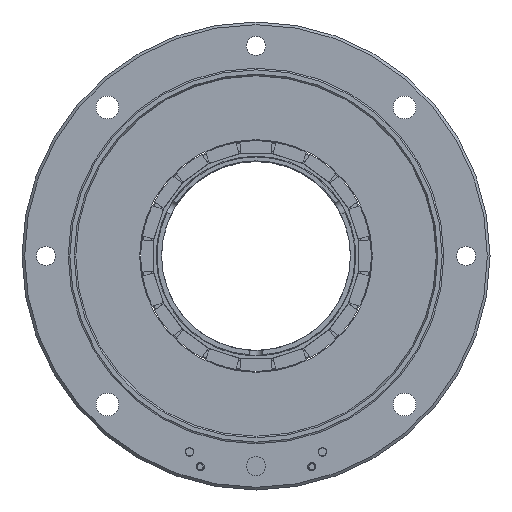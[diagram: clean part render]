
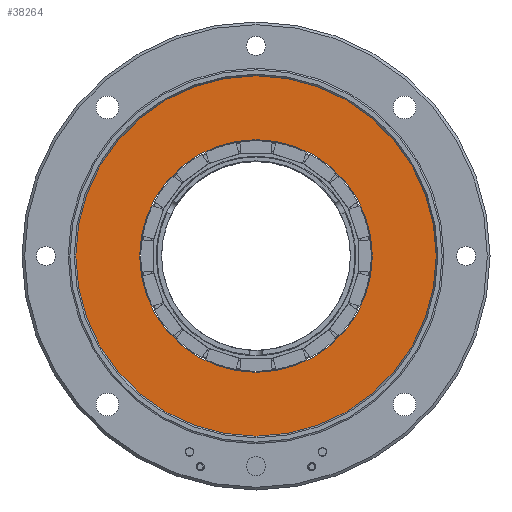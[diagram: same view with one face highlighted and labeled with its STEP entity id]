
A CAD part, left-side view. The second image highlights one B-rep face of the part: STEP entity #38264.
In plain terms, the highlighted planar face has unit normal (-1, 0, 0).
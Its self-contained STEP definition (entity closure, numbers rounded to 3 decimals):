
#19209=CARTESIAN_POINT('',(-1.1,0.,0.));
#19210=DIRECTION('',(-1.,0.,0.));
#19211=DIRECTION('',(0.,1.,0.));
#19212=AXIS2_PLACEMENT_3D('',#19209,#19210,#19211);
#19217=CARTESIAN_POINT('',(-1.1,0.,0.));
#19218=DIRECTION('',(1.,0.,0.));
#19219=DIRECTION('',(0.,1.,0.));
#19220=AXIS2_PLACEMENT_3D('',#19217,#19218,#19219);
#19233=CARTESIAN_POINT('',(-1.1,0.,0.));
#19234=DIRECTION('',(1.,0.,0.));
#19235=DIRECTION('',(0.,1.,0.));
#19236=AXIS2_PLACEMENT_3D('',#19233,#19234,#19235);
#19328=CARTESIAN_POINT('',(-1.1,0.,0.));
#19329=DIRECTION('',(-1.,0.,0.));
#19330=DIRECTION('',(0.,1.,0.));
#19331=AXIS2_PLACEMENT_3D('',#19328,#19329,#19330);
#33588=CARTESIAN_POINT('',(-1.1,21.87,0.));
#33589=CARTESIAN_POINT('',(-1.1,-21.87,0.));
#33590=VERTEX_POINT('',#33588);
#33591=VERTEX_POINT('',#33589);
#33601=CARTESIAN_POINT('',(-1.1,33.885,0.));
#33603=VERTEX_POINT('',#33601);
#33605=CARTESIAN_POINT('',(-1.1,-33.885,0.));
#33607=VERTEX_POINT('',#33605);
#38249=CARTESIAN_POINT('',(-1.1,0.,0.));
#38250=DIRECTION('',(1.,0.,0.));
#38251=DIRECTION('',(0.,-1.,0.));
#38252=AXIS2_PLACEMENT_3D('',#38249,#38250,#38251);
#38253=PLANE('',#38252);
#38254=ORIENTED_EDGE('',*,*,#38242,.F.);
#38255=ORIENTED_EDGE('',*,*,#38231,.T.);
#38256=EDGE_LOOP('',(#38254,#38255));
#38257=FACE_OUTER_BOUND('',#38256,.F.);
#38259=ORIENTED_EDGE('',*,*,#38258,.F.);
#38261=ORIENTED_EDGE('',*,*,#38260,.T.);
#38262=EDGE_LOOP('',(#38259,#38261));
#38263=FACE_BOUND('',#38262,.F.);
#38264=ADVANCED_FACE('',(#38257,#38263),#38253,.F.);
#19213=CIRCLE('',#19212,33.885);
#19221=CIRCLE('',#19220,33.885);
#19237=CIRCLE('',#19236,21.87);
#19332=CIRCLE('',#19331,21.87);
#38231=EDGE_CURVE('',#33603,#33607,#19221,.T.);
#38242=EDGE_CURVE('',#33603,#33607,#19213,.T.);
#38258=EDGE_CURVE('',#33590,#33591,#19237,.T.);
#38260=EDGE_CURVE('',#33590,#33591,#19332,.T.);
